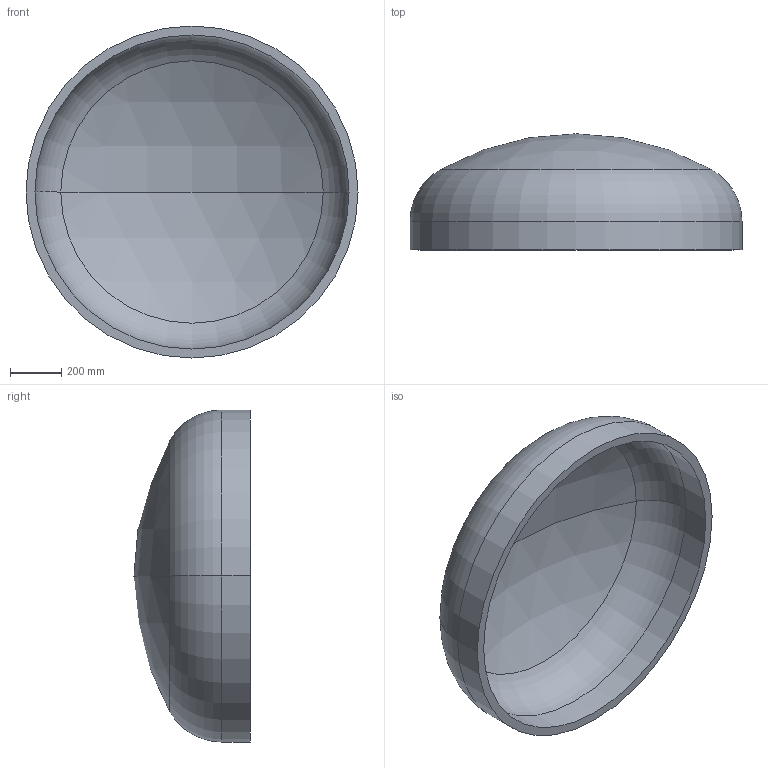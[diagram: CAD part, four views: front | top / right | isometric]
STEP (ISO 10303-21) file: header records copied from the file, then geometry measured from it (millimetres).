
FILE_DESCRIPTION (( 'STEP AP203' ), '1' );
FILE_NAME ('DIN 28013 Korbbogenform_-_Boden DIN 28013 - 1300 x 110 - I - s=35.step', '2016-07-01T09:49:41', ( '' ), ( '' ), 'SwSTEP 2.0', 'SolidWorks 2013', '' );
FILE_SCHEMA (( 'CONFIG_CONTROL_DESIGN' ));
Length unit declared in the file: millimetre
Products named in the file (1): DIN 28013 Korbbogenform_-_Boden DIN 28013 - 1300 x 110 - I - s=35
Bounding box: 1300 x 454.67 x 1300 mm (x, y, z)
Volume: 77400118.1 mm3; surface area: 4564522.3 mm2
Topology: 1 solids, 1 shells, 13 faces, 24 edges, 14 vertices
Faces by surface type: torus 4, cylinder 4, sphere 4, plane 1
Entity records: 407 total; most frequent: DIRECTION 72, CARTESIAN_POINT 52, ORIENTED_EDGE 48, AXIS2_PLACEMENT_3D 34, EDGE_CURVE 24, CIRCLE 20, VERTEX_POINT 14, EDGE_LOOP 14
